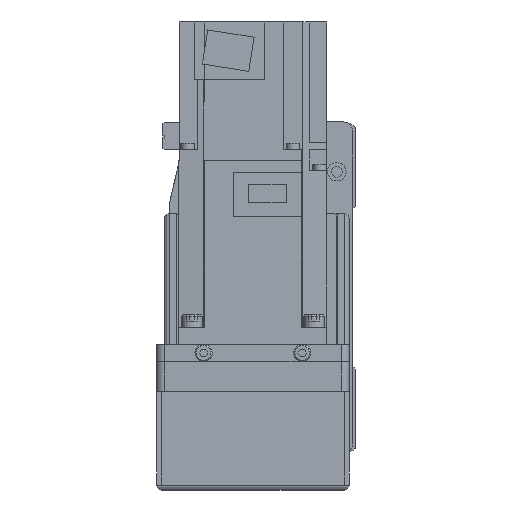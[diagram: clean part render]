
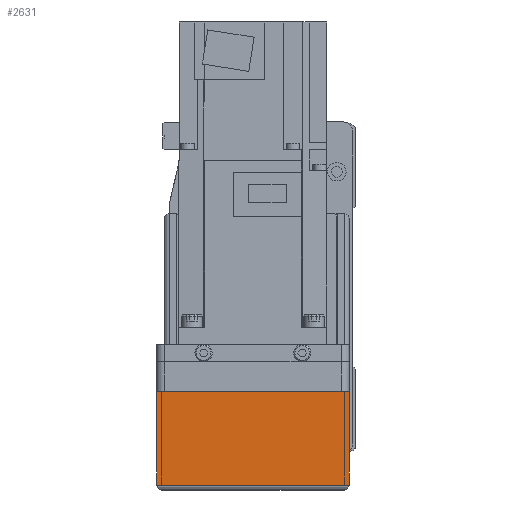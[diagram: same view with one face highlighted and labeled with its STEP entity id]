
A CAD part, left-side view. The second image highlights one B-rep face of the part: STEP entity #2631.
In plain terms, the highlighted planar face has unit normal (-1, 0, 0).
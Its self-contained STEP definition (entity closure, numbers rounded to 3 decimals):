
#2631 = ADVANCED_FACE( '', ( #5698 ), #5699, .F. );
#5698 = FACE_OUTER_BOUND( '', #9067, .T. );
#5699 = PLANE( '', #9068 );
#9067 = EDGE_LOOP( '', ( #16470, #16471, #16472, #16473 ) );
#9068 = AXIS2_PLACEMENT_3D( '', #16474, #16475, #16476 );
#16470 = ORIENTED_EDGE( '', *, *, #19167, .F. );
#16471 = ORIENTED_EDGE( '', *, *, #21956, .F. );
#16472 = ORIENTED_EDGE( '', *, *, #21796, .T. );
#16473 = ORIENTED_EDGE( '', *, *, #21347, .F. );
#16474 = CARTESIAN_POINT( '', ( -158., 36., 7. ) );
#16475 = DIRECTION( '', ( 1., 0., 0. ) );
#16476 = DIRECTION( '', ( 0., 0., -1. ) );
#19167 = EDGE_CURVE( '', #22797, #22799, #22800, .T. );
#21347 = EDGE_CURVE( '', #22799, #26296, #26297, .T. );
#21796 = EDGE_CURVE( '', #26875, #26296, #26879, .T. );
#21956 = EDGE_CURVE( '', #26875, #22797, #27075, .T. );
#22797 = VERTEX_POINT( '', #28133 );
#22799 = VERTEX_POINT( '', #28136 );
#22800 = LINE( '', #28137, #28138 );
#26296 = VERTEX_POINT( '', #33499 );
#26297 = LINE( '', #33500, #33501 );
#26875 = VERTEX_POINT( '', #34374 );
#26879 = LINE( '', #34379, #34380 );
#27075 = LINE( '', #34696, #34697 );
#28133 = CARTESIAN_POINT( '', ( -158., 39., -12.1 ) );
#28136 = CARTESIAN_POINT( '', ( -158., -39., -12.1 ) );
#28137 = CARTESIAN_POINT( '', ( -158., 50., -12.1 ) );
#28138 = VECTOR( '', #35695, 1000. );
#33499 = CARTESIAN_POINT( '', ( -158., -39., -50. ) );
#33500 = CARTESIAN_POINT( '', ( -158., -39., -12.1 ) );
#33501 = VECTOR( '', #38432, 1000. );
#34374 = CARTESIAN_POINT( '', ( -158., 39., -50. ) );
#34379 = CARTESIAN_POINT( '', ( -158., 40., -50. ) );
#34380 = VECTOR( '', #38915, 1000. );
#34696 = CARTESIAN_POINT( '', ( -158., 39., -50. ) );
#34697 = VECTOR( '', #39078, 1000. );
#35695 = DIRECTION( '', ( 0., -1., 0. ) );
#38432 = DIRECTION( '', ( 0., 0., -1. ) );
#38915 = DIRECTION( '', ( 0., -1., 0. ) );
#39078 = DIRECTION( '', ( 0., 0., 1. ) );
